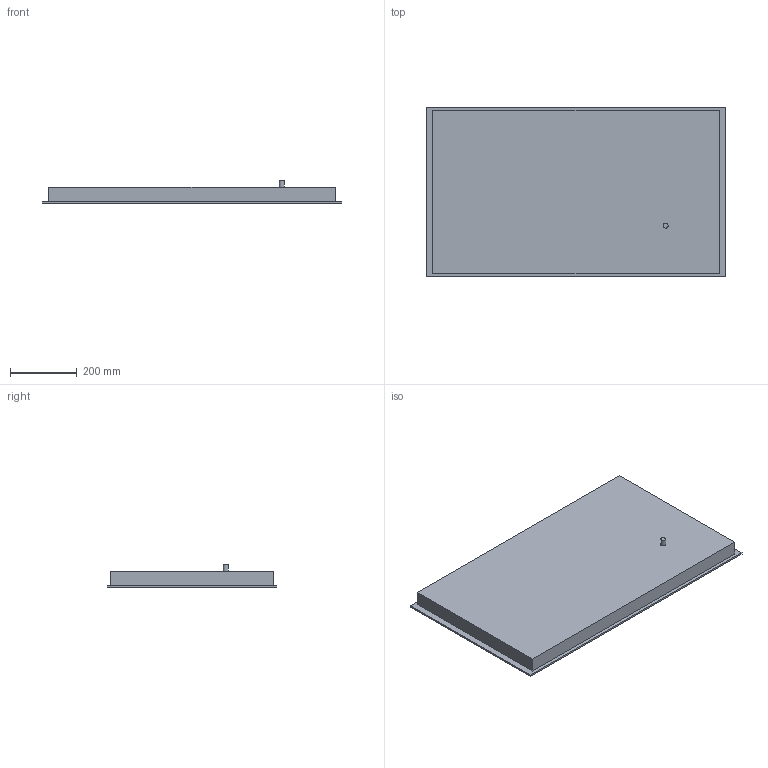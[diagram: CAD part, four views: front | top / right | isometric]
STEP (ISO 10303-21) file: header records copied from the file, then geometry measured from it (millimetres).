
FILE_DESCRIPTION(/* description */ (''),/* implementation_level */ '2;1');
FILE_NAME(/* name */ 'SIM1964DG.stp',/* time_stamp */ '2023-07-25T13:42:00+02:00',/* author */ (''),/* organization */ (''),/* preprocessor_version */ 'ST-DEVELOPER v16',/* originating_system */ 'SIEMENS PLM Software NX 11.0',/* authorisation */ '');
FILE_SCHEMA (('AUTOMOTIVE_DESIGN { 1 0 10303 214 3 1 1 1 }'));
Length unit declared in the file: millimetre
Products named in the file (1): giul36FC05E3cb01
Bounding box: 900 x 510 x 69 mm (x, y, z)
Volume: 20840134.3 mm3; surface area: 1894995.9 mm2
Topology: 3 solids, 3 shells, 15 faces, 36 edges, 36 vertices
Faces by surface type: plane 14, cylinder 1
Full cylindrical faces by diameter (mm): 15 x1
Entity records: 489 total; most frequent: DIRECTION 70, CARTESIAN_POINT 70, ORIENTED_EDGE 52, LINE 32, VECTOR 32, EDGE_CURVE 26, AXIS2_PLACEMENT_3D 19, VERTEX_POINT 18
